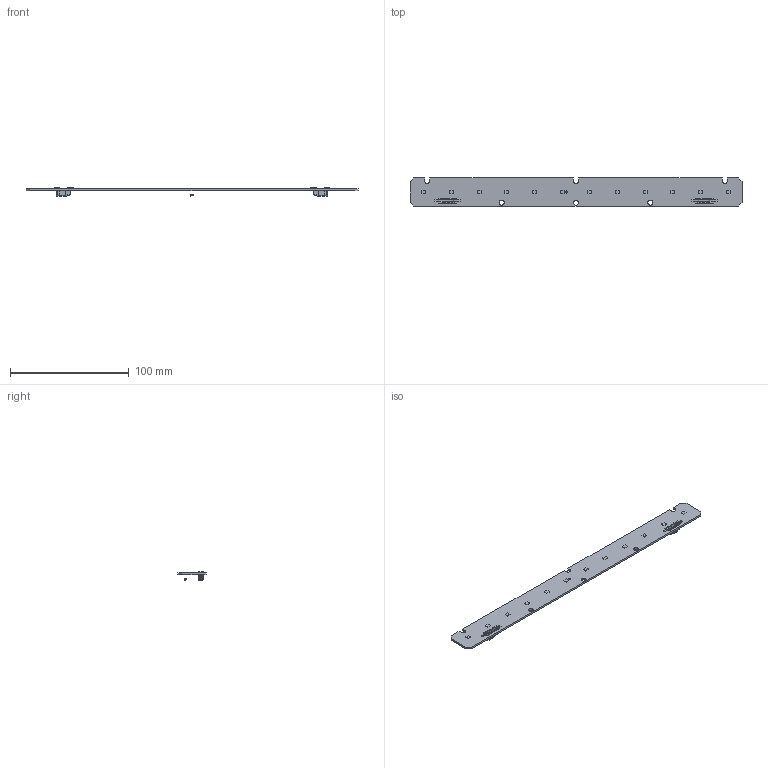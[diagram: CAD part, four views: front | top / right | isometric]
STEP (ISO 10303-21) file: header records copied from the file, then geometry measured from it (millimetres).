
FILE_DESCRIPTION((''),'2;1');
FILE_NAME('16208800_LLE5-24X280-650LM-BT','2020-06-16T14:45:05',('bernhard.fink'),(''),'CREO PARAMETRIC BY PTC INC, 2019164','CREO PARAMETRIC BY PTC INC, 2019164','');
FILE_SCHEMA(('CONFIG_CONTROL_DESIGN'));
Products named in the file (1): 16208800_LLE5-24X280-650LM-BT
Bounding box: 279 x 23.6 x 7.4 mm (x, y, z)
Volume: 10545.7 mm3; surface area: 15399 mm2
Topology: 13 solids, 29 shells, 736 faces, 2347 edges, 1602 vertices
Faces by surface type: plane 513, cylinder 161, extrusion 46, cone 8, bspline 8
Entity records: 51971 total; most frequent: CARTESIAN_POINT 32300, ORIENTED_EDGE 4217, DIRECTION 3490, EDGE_CURVE 2347, VERTEX_POINT 1604, VECTOR 1496, LINE 1450, AXIS2_PLACEMENT_3D 997
